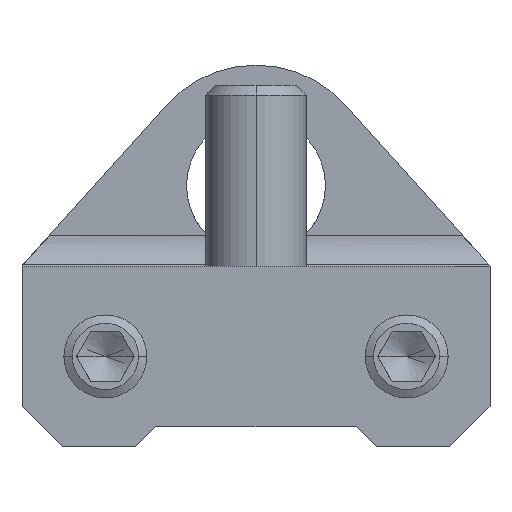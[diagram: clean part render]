
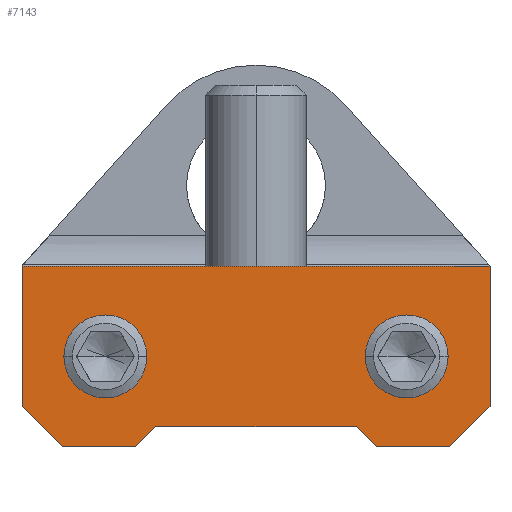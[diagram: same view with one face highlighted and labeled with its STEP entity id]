
A CAD part, front view. The second image highlights one B-rep face of the part: STEP entity #7143.
In plain terms, the highlighted planar face has unit normal (0, -1, 0).
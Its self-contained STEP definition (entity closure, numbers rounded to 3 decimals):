
#1943=CARTESIAN_POINT('',(-8.482,-257.0,-10.008));
#1944=VERTEX_POINT('',#1943);
#1960=CARTESIAN_POINT('',(-12.616,-257.0,-10.008));
#1961=VERTEX_POINT('',#1960);
#1968=CARTESIAN_POINT('',(-10.549,-257.0,-10.008));
#1969=DIRECTION('',(0.0,1.0,0.0));
#1970=DIRECTION('',(1.0,0.0,0.0));
#1971=AXIS2_PLACEMENT_3D('',#1968,#1969,#1970);
#1972=CIRCLE('',#1971,2.067);
#1973=EDGE_CURVE('',#1944,#1961,#1972,.T.);
#2139=CARTESIAN_POINT('',(6.518,-257.0,-10.008));
#2140=VERTEX_POINT('',#2139);
#2156=CARTESIAN_POINT('',(2.384,-257.0,-10.008));
#2157=VERTEX_POINT('',#2156);
#2164=CARTESIAN_POINT('',(4.451,-257.0,-10.008));
#2165=DIRECTION('',(0.0,1.0,0.0));
#2166=DIRECTION('',(1.0,0.0,0.0));
#2167=AXIS2_PLACEMENT_3D('',#2164,#2165,#2166);
#2168=CIRCLE('',#2167,2.067);
#2169=EDGE_CURVE('',#2140,#2157,#2168,.T.);
#5485=CARTESIAN_POINT('',(4.451,-257.0,-10.008));
#5486=DIRECTION('',(0.0,1.0,0.0));
#5487=DIRECTION('',(1.0,0.0,0.0));
#5488=AXIS2_PLACEMENT_3D('',#5485,#5486,#5487);
#5489=CIRCLE('',#5488,2.067);
#5490=EDGE_CURVE('',#2157,#2140,#5489,.T.);
#5797=CARTESIAN_POINT('',(-10.549,-257.0,-10.008));
#5798=DIRECTION('',(0.0,1.0,0.0));
#5799=DIRECTION('',(1.0,0.0,0.0));
#5800=AXIS2_PLACEMENT_3D('',#5797,#5798,#5799);
#5801=CIRCLE('',#5800,2.067);
#5802=EDGE_CURVE('',#1961,#1944,#5801,.T.);
#7012=CARTESIAN_POINT('',(-14.699,-257.0,-5.508));
#7013=VERTEX_POINT('',#7012);
#7020=CARTESIAN_POINT('',(8.601,-257.0,-5.508));
#7021=VERTEX_POINT('',#7020);
#7022=CARTESIAN_POINT('',(-14.699,-257.0,-5.508));
#7023=DIRECTION('',(1.0,0.0,0.0));
#7024=VECTOR('',#7023,23.3);
#7025=LINE('',#7022,#7024);
#7026=EDGE_CURVE('',#7013,#7021,#7025,.T.);
#7057=CARTESIAN_POINT('',(-3.049,-257.0,-9.693));
#7058=DIRECTION('',(0.0,1.0,0.0));
#7059=DIRECTION('',(0.0,0.0,1.0));
#7060=AXIS2_PLACEMENT_3D('',#7057,#7058,#7059);
#7061=PLANE('',#7060);
#7062=CARTESIAN_POINT('',(2.951,-257.0,-14.508));
#7063=VERTEX_POINT('',#7062);
#7064=CARTESIAN_POINT('',(1.951,-257.0,-13.508));
#7065=VERTEX_POINT('',#7064);
#7066=CARTESIAN_POINT('',(2.951,-257.0,-14.508));
#7067=DIRECTION('',(-0.707,0.0,0.707));
#7068=VECTOR('',#7067,1.414);
#7069=LINE('',#7066,#7068);
#7070=EDGE_CURVE('',#7063,#7065,#7069,.T.);
#7071=ORIENTED_EDGE('',*,*,#7070,.F.);
#7072=CARTESIAN_POINT('',(6.601,-257.0,-14.508));
#7073=VERTEX_POINT('',#7072);
#7074=CARTESIAN_POINT('',(6.601,-257.0,-14.508));
#7075=DIRECTION('',(-1.0,0.0,0.0));
#7076=VECTOR('',#7075,3.65);
#7077=LINE('',#7074,#7076);
#7078=EDGE_CURVE('',#7073,#7063,#7077,.T.);
#7079=ORIENTED_EDGE('',*,*,#7078,.F.);
#7080=CARTESIAN_POINT('',(8.601,-257.0,-12.508));
#7081=VERTEX_POINT('',#7080);
#7082=CARTESIAN_POINT('',(8.601,-257.0,-12.508));
#7083=DIRECTION('',(-0.707,0.0,-0.707));
#7084=VECTOR('',#7083,2.828);
#7085=LINE('',#7082,#7084);
#7086=EDGE_CURVE('',#7081,#7073,#7085,.T.);
#7087=ORIENTED_EDGE('',*,*,#7086,.F.);
#7088=CARTESIAN_POINT('',(8.601,-257.0,-5.508));
#7089=DIRECTION('',(0.0,0.0,-1.0));
#7090=VECTOR('',#7089,7.);
#7091=LINE('',#7088,#7090);
#7092=EDGE_CURVE('',#7021,#7081,#7091,.T.);
#7093=ORIENTED_EDGE('',*,*,#7092,.F.);
#7094=ORIENTED_EDGE('',*,*,#7026,.F.);
#7095=CARTESIAN_POINT('',(-14.699,-257.0,-12.508));
#7096=VERTEX_POINT('',#7095);
#7097=CARTESIAN_POINT('',(-14.699,-257.0,-12.508));
#7098=DIRECTION('',(0.0,0.0,1.0));
#7099=VECTOR('',#7098,7.0);
#7100=LINE('',#7097,#7099);
#7101=EDGE_CURVE('',#7096,#7013,#7100,.T.);
#7102=ORIENTED_EDGE('',*,*,#7101,.F.);
#7103=CARTESIAN_POINT('',(-12.699,-257.0,-14.508));
#7104=VERTEX_POINT('',#7103);
#7105=CARTESIAN_POINT('',(-12.699,-257.0,-14.508));
#7106=DIRECTION('',(-0.707,0.0,0.707));
#7107=VECTOR('',#7106,2.828);
#7108=LINE('',#7105,#7107);
#7109=EDGE_CURVE('',#7104,#7096,#7108,.T.);
#7110=ORIENTED_EDGE('',*,*,#7109,.F.);
#7111=CARTESIAN_POINT('',(-9.049,-257.0,-14.508));
#7112=VERTEX_POINT('',#7111);
#7113=CARTESIAN_POINT('',(-9.049,-257.0,-14.508));
#7114=DIRECTION('',(-1.0,0.0,0.0));
#7115=VECTOR('',#7114,3.65);
#7116=LINE('',#7113,#7115);
#7117=EDGE_CURVE('',#7112,#7104,#7116,.T.);
#7118=ORIENTED_EDGE('',*,*,#7117,.F.);
#7119=CARTESIAN_POINT('',(-8.049,-257.0,-13.508));
#7120=VERTEX_POINT('',#7119);
#7121=CARTESIAN_POINT('',(-8.049,-257.0,-13.508));
#7122=DIRECTION('',(-0.707,0.0,-0.707));
#7123=VECTOR('',#7122,1.414);
#7124=LINE('',#7121,#7123);
#7125=EDGE_CURVE('',#7120,#7112,#7124,.T.);
#7126=ORIENTED_EDGE('',*,*,#7125,.F.);
#7127=CARTESIAN_POINT('',(1.951,-257.0,-13.508));
#7128=DIRECTION('',(-1.0,0.0,0.0));
#7129=VECTOR('',#7128,10.0);
#7130=LINE('',#7127,#7129);
#7131=EDGE_CURVE('',#7065,#7120,#7130,.T.);
#7132=ORIENTED_EDGE('',*,*,#7131,.F.);
#7133=EDGE_LOOP('',(#7071,#7079,#7087,#7093,#7094,#7102,#7110,#7118,#7126,#7132));
#7134=FACE_OUTER_BOUND('',#7133,.T.);
#7135=ORIENTED_EDGE('',*,*,#2169,.T.);
#7136=ORIENTED_EDGE('',*,*,#5490,.T.);
#7137=EDGE_LOOP('',(#7135,#7136));
#7138=FACE_BOUND('',#7137,.T.);
#7139=ORIENTED_EDGE('',*,*,#1973,.T.);
#7140=ORIENTED_EDGE('',*,*,#5802,.T.);
#7141=EDGE_LOOP('',(#7139,#7140));
#7142=FACE_BOUND('',#7141,.T.);
#7143=ADVANCED_FACE('',(#7134,#7138,#7142),#7061,.F.);
